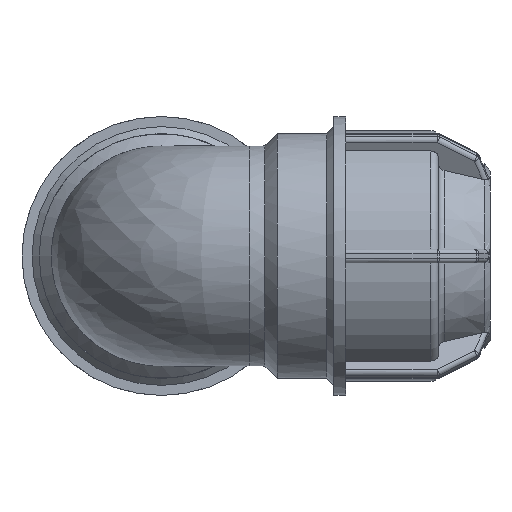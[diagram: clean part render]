
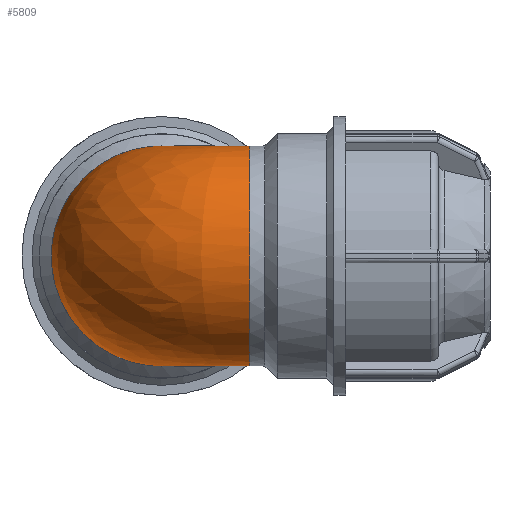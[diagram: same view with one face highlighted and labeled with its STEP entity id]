
A CAD part, front view. The second image highlights one B-rep face of the part: STEP entity #5809.
In plain terms, the highlighted free-form (B-spline) face has degree [2, 2] with [9, 3] control points.
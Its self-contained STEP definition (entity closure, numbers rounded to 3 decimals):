
#1374=FACE_OUTER_BOUND('',#1778,.T.);
#1778=EDGE_LOOP('',(#3990,#3991));
#2209=CIRCLE('',#6215,28.8);
#2210=CIRCLE('',#6216,28.8);
#2549=VERTEX_POINT('',#8843);
#2550=VERTEX_POINT('',#8844);
#3081=EDGE_CURVE('',#2549,#2550,#2209,.T.);
#3082=EDGE_CURVE('',#2550,#2549,#2210,.T.);
#3990=ORIENTED_EDGE('',*,*,#3081,.F.);
#3991=ORIENTED_EDGE('',*,*,#3082,.F.);
#5808=(
BOUNDED_SURFACE()
B_SPLINE_SURFACE(2,2,((#8816,#8817,#8818),(#8819,#8820,#8821),(#8822,#8823,
#8824),(#8825,#8826,#8827),(#8828,#8829,#8830),(#8831,#8832,#8833),(#8834,
#8835,#8836),(#8837,#8838,#8839),(#8840,#8841,#8842)),.UNSPECIFIED.,.F.,
 .F.,.F.)
B_SPLINE_SURFACE_WITH_KNOTS((3,2,2,2,3),(3,3),(-2.504,-1.252,
0.,1.252,2.504),(-3.142,-1.571),
 .UNSPECIFIED.)
GEOMETRIC_REPRESENTATION_ITEM()
RATIONAL_B_SPLINE_SURFACE(((1.,0.707,1.),(0.81,
0.573,0.81),(1.,0.707,1.),(0.81,
0.573,0.81),(1.,0.707,1.),(0.81,
0.573,0.81),(1.,0.707,1.),(0.81,
0.573,0.81),(1.,0.707,1.)))
REPRESENTATION_ITEM('')
SURFACE()
);
#5809=ADVANCED_FACE('',(#1374),#5808,.F.);
#6215=AXIS2_PLACEMENT_3D('',#8845,#6963,#6964);
#6216=AXIS2_PLACEMENT_3D('',#8846,#6965,#6966);
#6963=DIRECTION('center_axis',(1.,0.,0.));
#6964=DIRECTION('ref_axis',(0.,0.,-1.));
#6965=DIRECTION('center_axis',(0.,1.,0.));
#6966=DIRECTION('ref_axis',(0.,0.,-1.));
#8816=CARTESIAN_POINT('Ctrl Pts',(23.14,23.14,-17.146));
#8817=CARTESIAN_POINT('Ctrl Pts',(23.14,23.14,-17.146));
#8818=CARTESIAN_POINT('Ctrl Pts',(23.14,23.14,-17.146));
#8819=CARTESIAN_POINT('Ctrl Pts',(10.744,23.14,-33.875));
#8820=CARTESIAN_POINT('Ctrl Pts',(10.744,10.744,-33.875));
#8821=CARTESIAN_POINT('Ctrl Pts',(23.14,10.744,-33.875));
#8822=CARTESIAN_POINT('Ctrl Pts',(-9.028,23.14,-27.348));
#8823=CARTESIAN_POINT('Ctrl Pts',(-9.028,-9.028,-27.348));
#8824=CARTESIAN_POINT('Ctrl Pts',(23.14,-9.028,-27.348));
#8825=CARTESIAN_POINT('Ctrl Pts',(-28.8,23.14,-20.821));
#8826=CARTESIAN_POINT('Ctrl Pts',(-28.8,-28.8,-20.821));
#8827=CARTESIAN_POINT('Ctrl Pts',(23.14,-28.8,-20.821));
#8828=CARTESIAN_POINT('Ctrl Pts',(-28.8,23.14,0.));
#8829=CARTESIAN_POINT('Ctrl Pts',(-28.8,-28.8,0.));
#8830=CARTESIAN_POINT('Ctrl Pts',(23.14,-28.8,0.));
#8831=CARTESIAN_POINT('Ctrl Pts',(-28.8,23.14,20.821));
#8832=CARTESIAN_POINT('Ctrl Pts',(-28.8,-28.8,20.821));
#8833=CARTESIAN_POINT('Ctrl Pts',(23.14,-28.8,20.821));
#8834=CARTESIAN_POINT('Ctrl Pts',(-9.028,23.14,27.348));
#8835=CARTESIAN_POINT('Ctrl Pts',(-9.028,-9.028,27.348));
#8836=CARTESIAN_POINT('Ctrl Pts',(23.14,-9.028,27.348));
#8837=CARTESIAN_POINT('Ctrl Pts',(10.744,23.14,33.875));
#8838=CARTESIAN_POINT('Ctrl Pts',(10.744,10.744,33.875));
#8839=CARTESIAN_POINT('Ctrl Pts',(23.14,10.744,33.875));
#8840=CARTESIAN_POINT('Ctrl Pts',(23.14,23.14,17.146));
#8841=CARTESIAN_POINT('Ctrl Pts',(23.14,23.14,17.146));
#8842=CARTESIAN_POINT('Ctrl Pts',(23.14,23.14,17.146));
#8843=CARTESIAN_POINT('',(23.14,23.14,17.146));
#8844=CARTESIAN_POINT('',(23.14,23.14,-17.146));
#8845=CARTESIAN_POINT('Origin',(23.14,0.,0.));
#8846=CARTESIAN_POINT('Origin',(0.,23.14,0.));
